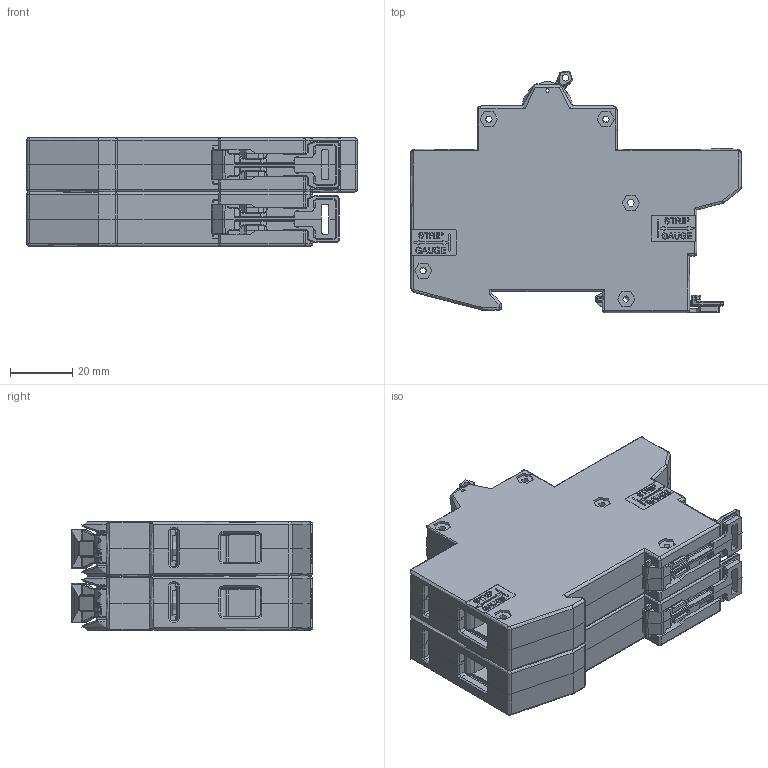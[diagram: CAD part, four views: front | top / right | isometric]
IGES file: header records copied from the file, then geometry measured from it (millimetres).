
Global section: file name: GR_2p_with aux; native system: Autodesk Inventor 2014; preprocessor: unknown; author: nbinnendijk; date: 20170404.114812; units: inch
Bounding box: 106.38 x 77.77 x 34.95 mm (x, y, z)
Topology: 0 solids, 0 shells, 4902 faces, 29583 edges, 29539 vertices
Faces by surface type: plane 3034, revolution 1453, bspline 415
